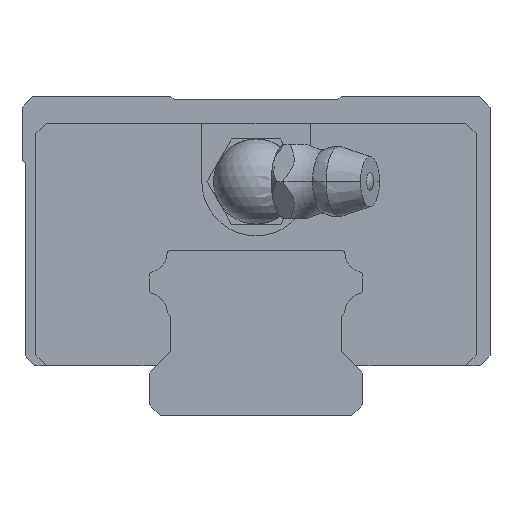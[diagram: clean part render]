
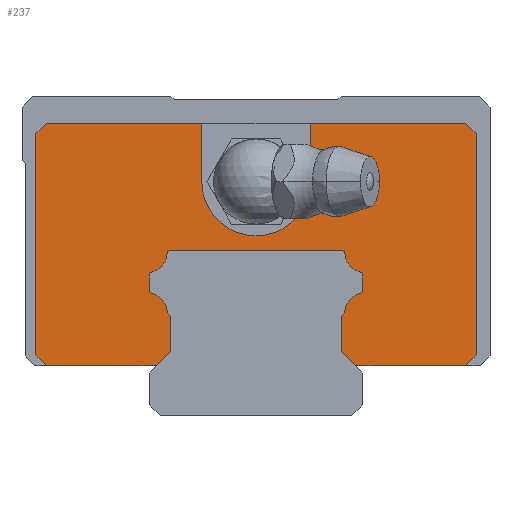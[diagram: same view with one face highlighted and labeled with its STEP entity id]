
A CAD part, front view. The second image highlights one B-rep face of the part: STEP entity #237.
In plain terms, the highlighted planar face has unit normal (0, -1, 0).
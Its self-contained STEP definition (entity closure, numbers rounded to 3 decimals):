
#237=ADVANCED_FACE('',(#512),#513,.T.);
#512=FACE_OUTER_BOUND('',#947,.T.);
#513=PLANE('',#948);
#947=EDGE_LOOP('',(#1852,#1853,#1854,#1855,#1856,#1857,#1858,#1859,#1860,#1861,#1862,#1863,#1864,#1865,#1866,#1867,#1868,#1869,#1870,#1871,#1872,#1873,#1874,#1875,#1876,#1877,#1878,#1879,#1880,#1881,#1882,#1883,#1884));
#948=AXIS2_PLACEMENT_3D('',#1885,#1886,#1887);
#1852=ORIENTED_EDGE('',*,*,#3223,.F.);
#1853=ORIENTED_EDGE('',*,*,#3224,.F.);
#1854=ORIENTED_EDGE('',*,*,#3187,.F.);
#1855=ORIENTED_EDGE('',*,*,#3225,.F.);
#1856=ORIENTED_EDGE('',*,*,#3096,.F.);
#1857=ORIENTED_EDGE('',*,*,#3099,.F.);
#1858=ORIENTED_EDGE('',*,*,#3226,.F.);
#1859=ORIENTED_EDGE('',*,*,#3227,.F.);
#1860=ORIENTED_EDGE('',*,*,#3228,.F.);
#1861=ORIENTED_EDGE('',*,*,#3229,.F.);
#1862=ORIENTED_EDGE('',*,*,#3102,.F.);
#1863=ORIENTED_EDGE('',*,*,#3084,.F.);
#1864=ORIENTED_EDGE('',*,*,#3105,.F.);
#1865=ORIENTED_EDGE('',*,*,#3230,.F.);
#1866=ORIENTED_EDGE('',*,*,#3231,.F.);
#1867=ORIENTED_EDGE('',*,*,#3075,.F.);
#1868=ORIENTED_EDGE('',*,*,#3222,.F.);
#1869=ORIENTED_EDGE('',*,*,#3232,.F.);
#1870=ORIENTED_EDGE('',*,*,#3233,.F.);
#1871=ORIENTED_EDGE('',*,*,#3234,.F.);
#1872=ORIENTED_EDGE('',*,*,#3136,.F.);
#1873=ORIENTED_EDGE('',*,*,#3235,.F.);
#1874=ORIENTED_EDGE('',*,*,#3160,.F.);
#1875=ORIENTED_EDGE('',*,*,#3184,.T.);
#1876=ORIENTED_EDGE('',*,*,#3236,.T.);
#1877=ORIENTED_EDGE('',*,*,#3020,.T.);
#1878=ORIENTED_EDGE('',*,*,#3237,.T.);
#1879=ORIENTED_EDGE('',*,*,#3156,.F.);
#1880=ORIENTED_EDGE('',*,*,#3238,.F.);
#1881=ORIENTED_EDGE('',*,*,#3239,.F.);
#1882=ORIENTED_EDGE('',*,*,#3240,.F.);
#1883=ORIENTED_EDGE('',*,*,#3124,.F.);
#1884=ORIENTED_EDGE('',*,*,#3241,.F.);
#1885=CARTESIAN_POINT('',(0.0,-19.6,22.0));
#1886=DIRECTION('',(0.0,-1.0,0.0));
#1887=DIRECTION('',(0.0,0.0,-1.0));
#3020=EDGE_CURVE('',#3588,#3592,#3594,.T.);
#3075=EDGE_CURVE('',#3686,#3682,#3688,.T.);
#3084=EDGE_CURVE('',#3700,#3696,#3702,.T.);
#3096=EDGE_CURVE('',#3724,#3720,#3726,.T.);
#3099=EDGE_CURVE('',#3729,#3724,#3731,.T.);
#3102=EDGE_CURVE('',#3696,#3733,#3736,.T.);
#3105=EDGE_CURVE('',#3739,#3700,#3741,.T.);
#3124=EDGE_CURVE('',#3775,#3763,#3777,.T.);
#3136=EDGE_CURVE('',#3795,#3791,#3797,.T.);
#3156=EDGE_CURVE('',#3830,#3832,#3833,.T.);
#3160=EDGE_CURVE('',#3838,#3826,#3840,.T.);
#3184=EDGE_CURVE('',#3838,#3878,#3880,.T.);
#3187=EDGE_CURVE('',#3883,#3881,#3885,.T.);
#3222=EDGE_CURVE('',#3937,#3686,#3939,.T.);
#3223=EDGE_CURVE('',#3940,#3941,#3942,.T.);
#3224=EDGE_CURVE('',#3881,#3940,#3943,.T.);
#3225=EDGE_CURVE('',#3720,#3883,#3944,.T.);
#3226=EDGE_CURVE('',#3945,#3729,#3946,.T.);
#3227=EDGE_CURVE('',#3947,#3945,#3948,.T.);
#3228=EDGE_CURVE('',#3949,#3947,#3950,.T.);
#3229=EDGE_CURVE('',#3733,#3949,#3951,.T.);
#3230=EDGE_CURVE('',#3952,#3739,#3953,.T.);
#3231=EDGE_CURVE('',#3682,#3952,#3954,.T.);
#3232=EDGE_CURVE('',#3955,#3937,#3956,.T.);
#3233=EDGE_CURVE('',#3957,#3955,#3958,.T.);
#3234=EDGE_CURVE('',#3791,#3957,#3959,.T.);
#3235=EDGE_CURVE('',#3826,#3795,#3960,.T.);
#3236=EDGE_CURVE('',#3878,#3588,#3961,.T.);
#3237=EDGE_CURVE('',#3592,#3832,#3962,.T.);
#3238=EDGE_CURVE('',#3963,#3830,#3964,.T.);
#3239=EDGE_CURVE('',#3965,#3963,#3966,.T.);
#3240=EDGE_CURVE('',#3763,#3965,#3967,.T.);
#3241=EDGE_CURVE('',#3941,#3775,#3968,.T.);
#3588=VERTEX_POINT('',#4476);
#3592=VERTEX_POINT('',#4481);
#3594=CIRCLE('',#4484,5.1);
#3682=VERTEX_POINT('',#4600);
#3686=VERTEX_POINT('',#4606);
#3688=LINE('',#4609,#4610);
#3696=VERTEX_POINT('',#4618);
#3700=VERTEX_POINT('',#4623);
#3702=CIRCLE('',#4626,0.3);
#3720=VERTEX_POINT('',#4652);
#3724=VERTEX_POINT('',#4658);
#3726=LINE('',#4661,#4662);
#3729=VERTEX_POINT('',#4665);
#3731=CIRCLE('',#4668,0.3);
#3733=VERTEX_POINT('',#4670);
#3736=CIRCLE('',#4674,1.9);
#3739=VERTEX_POINT('',#4678);
#3741=LINE('',#4681,#4682);
#3763=VERTEX_POINT('',#4712);
#3775=VERTEX_POINT('',#4730);
#3777=LINE('',#4733,#4734);
#3791=VERTEX_POINT('',#4754);
#3795=VERTEX_POINT('',#4760);
#3797=LINE('',#4763,#4764);
#3826=VERTEX_POINT('',#4809);
#3830=VERTEX_POINT('',#4815);
#3832=VERTEX_POINT('',#4818);
#3833=LINE('',#4819,#4820);
#3838=VERTEX_POINT('',#4827);
#3840=LINE('',#4830,#4831);
#3878=VERTEX_POINT('',#4883);
#3880=LINE('',#4886,#4887);
#3881=VERTEX_POINT('',#4888);
#3883=VERTEX_POINT('',#4891);
#3885=CIRCLE('',#4894,1.9);
#3937=VERTEX_POINT('',#4966);
#3939=LINE('',#4969,#4970);
#3940=VERTEX_POINT('',#4971);
#3941=VERTEX_POINT('',#4972);
#3942=LINE('',#4973,#4974);
#3943=LINE('',#4975,#4976);
#3944=CIRCLE('',#4977,0.3);
#3945=VERTEX_POINT('',#4978);
#3946=CIRCLE('',#4979,1.9);
#3947=VERTEX_POINT('',#4980);
#3948=CIRCLE('',#4981,0.3);
#3949=VERTEX_POINT('',#4982);
#3950=LINE('',#4983,#4984);
#3951=CIRCLE('',#4985,0.3);
#3952=VERTEX_POINT('',#4986);
#3953=CIRCLE('',#4987,0.3);
#3954=CIRCLE('',#4988,1.9);
#3955=VERTEX_POINT('',#4989);
#3956=LINE('',#4990,#4991);
#3957=VERTEX_POINT('',#4992);
#3958=LINE('',#4993,#4994);
#3959=LINE('',#4995,#4996);
#3960=LINE('',#4997,#4998);
#3961=CIRCLE('',#4999,5.1);
#3962=LINE('',#5000,#5001);
#3963=VERTEX_POINT('',#5002);
#3964=LINE('',#5003,#5004);
#3965=VERTEX_POINT('',#5005);
#3966=LINE('',#5006,#5007);
#3967=LINE('',#5008,#5009);
#3968=LINE('',#5010,#5011);
#4476=CARTESIAN_POINT('',(0.,-19.6,16.9));
#4481=CARTESIAN_POINT('',(-5.1,-19.6,22.0));
#4484=AXIS2_PLACEMENT_3D('',#5783,#5784,#5785);
#4600=CARTESIAN_POINT('',(8.349,-19.6,9.649));
#4606=CARTESIAN_POINT('',(8.0,-19.6,9.3));
#4609=CARTESIAN_POINT('',(10.35,-19.6,11.65));
#4610=VECTOR('',#5886,1000.0);
#4618=CARTESIAN_POINT('',(9.775,-19.6,13.51));
#4623=CARTESIAN_POINT('',(10.0,-19.6,13.219));
#4626=AXIS2_PLACEMENT_3D('',#5907,#5908,#5909);
#4652=CARTESIAN_POINT('',(-10.0,-19.6,11.781));
#4658=CARTESIAN_POINT('',(-10.0,-19.6,13.219));
#4661=CARTESIAN_POINT('',(-10.0,-19.6,22.0));
#4662=VECTOR('',#5921,1000.0);
#4665=CARTESIAN_POINT('',(-9.775,-19.6,13.51));
#4668=AXIS2_PLACEMENT_3D('',#5926,#5927,#5928);
#4670=CARTESIAN_POINT('',(8.354,-19.6,15.22));
#4674=AXIS2_PLACEMENT_3D('',#5933,#5934,#5935);
#4678=CARTESIAN_POINT('',(10.0,-19.6,11.781));
#4681=CARTESIAN_POINT('',(10.0,-19.6,22.0));
#4682=VECTOR('',#5938,1000.0);
#4712=CARTESIAN_POINT('',(-19.7,-19.6,4.7));
#4730=CARTESIAN_POINT('',(-9.3,-19.6,4.7));
#4733=CARTESIAN_POINT('',(19.7,-19.6,4.7));
#4734=VECTOR('',#5963,1000.0);
#4754=CARTESIAN_POINT('',(20.7,-19.6,5.7));
#4760=CARTESIAN_POINT('',(20.7,-19.6,26.5));
#4763=CARTESIAN_POINT('',(20.7,-19.6,26.5));
#4764=VECTOR('',#5979,1000.0);
#4809=CARTESIAN_POINT('',(19.7,-19.6,27.5));
#4815=CARTESIAN_POINT('',(-19.7,-19.6,27.5));
#4818=CARTESIAN_POINT('',(-5.1,-19.6,27.5));
#4819=CARTESIAN_POINT('',(-19.7,-19.6,27.5));
#4820=VECTOR('',#5999,1000.0);
#4827=CARTESIAN_POINT('',(5.1,-19.6,27.5));
#4830=CARTESIAN_POINT('',(-19.7,-19.6,27.5));
#4831=VECTOR('',#6003,1000.0);
#4883=CARTESIAN_POINT('',(5.1,-19.6,22.0));
#4886=CARTESIAN_POINT('',(5.1,-19.6,27.5));
#4887=VECTOR('',#6043,1000.0);
#4888=CARTESIAN_POINT('',(-8.349,-19.6,9.649));
#4891=CARTESIAN_POINT('',(-9.775,-19.6,11.49));
#4894=AXIS2_PLACEMENT_3D('',#6046,#6047,#6048);
#4966=CARTESIAN_POINT('',(8.0,-19.6,6.));
#4969=CARTESIAN_POINT('',(8.0,-19.6,22.0));
#4970=VECTOR('',#6109,1000.0);
#4971=CARTESIAN_POINT('',(-8.0,-19.6,9.3));
#4972=CARTESIAN_POINT('',(-8.0,-19.6,6.));
#4973=CARTESIAN_POINT('',(-8.0,-19.6,22.0));
#4974=VECTOR('',#6110,1000.0);
#4975=CARTESIAN_POINT('',(-10.35,-19.6,11.65));
#4976=VECTOR('',#6111,1000.0);
#4977=AXIS2_PLACEMENT_3D('',#6112,#6113,#6114);
#4978=CARTESIAN_POINT('',(-8.354,-19.6,15.22));
#4979=AXIS2_PLACEMENT_3D('',#6115,#6116,#6117);
#4980=CARTESIAN_POINT('',(-8.055,-19.6,15.5));
#4981=AXIS2_PLACEMENT_3D('',#6118,#6119,#6120);
#4982=CARTESIAN_POINT('',(8.055,-19.6,15.5));
#4983=CARTESIAN_POINT('',(0.0,-19.6,15.5));
#4984=VECTOR('',#6121,1000.0);
#4985=AXIS2_PLACEMENT_3D('',#6122,#6123,#6124);
#4986=CARTESIAN_POINT('',(9.775,-19.6,11.49));
#4987=AXIS2_PLACEMENT_3D('',#6125,#6126,#6127);
#4988=AXIS2_PLACEMENT_3D('',#6128,#6129,#6130);
#4989=CARTESIAN_POINT('',(9.3,-19.6,4.7));
#4990=CARTESIAN_POINT('',(-4.,-19.6,18.));
#4991=VECTOR('',#6131,1000.0);
#4992=CARTESIAN_POINT('',(19.7,-19.6,4.7));
#4993=CARTESIAN_POINT('',(19.7,-19.6,4.7));
#4994=VECTOR('',#6132,1000.0);
#4995=CARTESIAN_POINT('',(20.7,-19.6,5.7));
#4996=VECTOR('',#6133,1000.0);
#4997=CARTESIAN_POINT('',(19.7,-19.6,27.5));
#4998=VECTOR('',#6134,1000.0);
#4999=AXIS2_PLACEMENT_3D('',#6135,#6136,#6137);
#5000=CARTESIAN_POINT('',(-5.1,-19.6,22.0));
#5001=VECTOR('',#6138,1000.0);
#5002=CARTESIAN_POINT('',(-20.7,-19.6,26.5));
#5003=CARTESIAN_POINT('',(-20.7,-19.6,26.5));
#5004=VECTOR('',#6139,1000.0);
#5005=CARTESIAN_POINT('',(-20.7,-19.6,5.7));
#5006=CARTESIAN_POINT('',(-20.7,-19.6,5.7));
#5007=VECTOR('',#6140,1000.0);
#5008=CARTESIAN_POINT('',(-19.7,-19.6,4.7));
#5009=VECTOR('',#6141,1000.0);
#5010=CARTESIAN_POINT('',(4.,-19.6,18.));
#5011=VECTOR('',#6142,1000.0);
#5783=CARTESIAN_POINT('',(0.0,-19.6,22.0));
#5784=DIRECTION('',(0.0,1.0,0.0));
#5785=DIRECTION('',(-1.0,0.0,0.0));
#5886=DIRECTION('',(0.707,0.0,0.707));
#5907=CARTESIAN_POINT('',(9.7,-19.6,13.219));
#5908=DIRECTION('',(0.0,-1.0,0.0));
#5909=DIRECTION('',(0.0,0.0,-1.0));
#5921=DIRECTION('',(0.0,0.0,-1.0));
#5926=CARTESIAN_POINT('',(-9.7,-19.6,13.219));
#5927=DIRECTION('',(0.0,-1.0,0.0));
#5928=DIRECTION('',(0.0,0.0,-1.0));
#5933=CARTESIAN_POINT('',(10.249,-19.6,15.349));
#5934=DIRECTION('',(0.0,1.0,0.0));
#5935=DIRECTION('',(0.0,0.0,-1.0));
#5938=DIRECTION('',(0.0,0.0,1.0));
#5963=DIRECTION('',(-1.0,0.0,0.0));
#5979=DIRECTION('',(0.0,0.0,-1.0));
#5999=DIRECTION('',(1.0,0.0,0.0));
#6003=DIRECTION('',(1.0,0.0,0.0));
#6043=DIRECTION('',(0.0,0.0,-1.0));
#6046=CARTESIAN_POINT('',(-10.249,-19.6,9.651));
#6047=DIRECTION('',(0.0,1.0,0.0));
#6048=DIRECTION('',(0.0,0.0,-1.0));
#6109=DIRECTION('',(0.0,0.0,1.0));
#6110=DIRECTION('',(0.0,0.0,-1.0));
#6111=DIRECTION('',(0.707,0.0,-0.707));
#6112=CARTESIAN_POINT('',(-9.7,-19.6,11.781));
#6113=DIRECTION('',(0.0,-1.0,0.0));
#6114=DIRECTION('',(0.0,0.0,-1.0));
#6115=CARTESIAN_POINT('',(-10.249,-19.6,15.349));
#6116=DIRECTION('',(0.0,1.0,0.0));
#6117=DIRECTION('',(0.0,0.0,-1.0));
#6118=CARTESIAN_POINT('',(-8.055,-19.6,15.2));
#6119=DIRECTION('',(0.0,-1.0,0.0));
#6120=DIRECTION('',(0.0,0.0,-1.0));
#6121=DIRECTION('',(-1.0,0.0,0.0));
#6122=CARTESIAN_POINT('',(8.055,-19.6,15.2));
#6123=DIRECTION('',(0.0,-1.0,0.0));
#6124=DIRECTION('',(0.0,0.0,-1.0));
#6125=CARTESIAN_POINT('',(9.7,-19.6,11.781));
#6126=DIRECTION('',(0.0,-1.0,0.0));
#6127=DIRECTION('',(0.0,0.0,-1.0));
#6128=CARTESIAN_POINT('',(10.249,-19.6,9.651));
#6129=DIRECTION('',(0.0,1.0,0.0));
#6130=DIRECTION('',(0.0,0.0,-1.0));
#6131=DIRECTION('',(-0.707,0.0,0.707));
#6132=DIRECTION('',(-1.0,0.0,0.0));
#6133=DIRECTION('',(-0.707,0.0,-0.707));
#6134=DIRECTION('',(0.707,0.0,-0.707));
#6135=CARTESIAN_POINT('',(0.0,-19.6,22.0));
#6136=DIRECTION('',(0.0,1.0,0.0));
#6137=DIRECTION('',(-1.0,0.0,0.0));
#6138=DIRECTION('',(0.0,0.0,1.0));
#6139=DIRECTION('',(0.707,0.0,0.707));
#6140=DIRECTION('',(0.0,0.0,1.0));
#6141=DIRECTION('',(-0.707,0.0,0.707));
#6142=DIRECTION('',(-0.707,0.0,-0.707));
